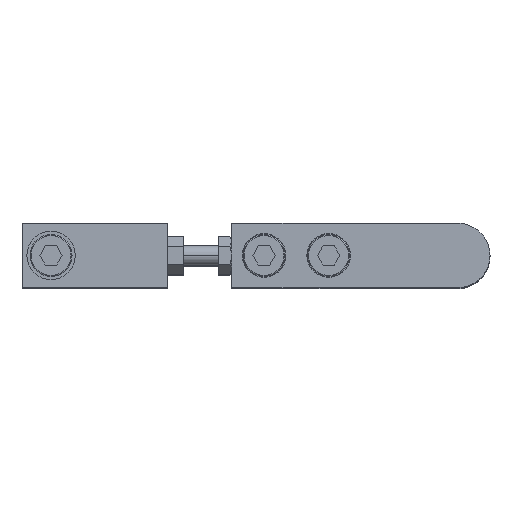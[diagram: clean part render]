
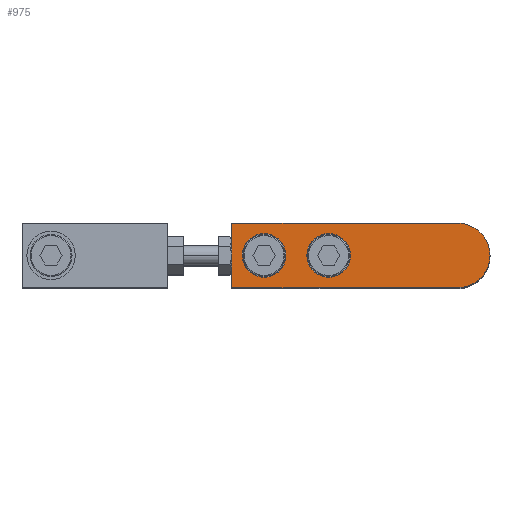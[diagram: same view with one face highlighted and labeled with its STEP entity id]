
A CAD part, top view. The second image highlights one B-rep face of the part: STEP entity #975.
In plain terms, the highlighted planar face has unit normal (0, 0, 1) as drawn and (0, 0, -1) by its records, which use the part's own axes.
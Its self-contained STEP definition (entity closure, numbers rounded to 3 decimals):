
#57 = CIRCLE ( 'NONE', #1817, 6.75 ) ;
#244 = VERTEX_POINT ( 'NONE', #5883 ) ;
#258 = DIRECTION ( 'NONE',  ( -1., 0., 0. ) ) ;
#295 = EDGE_LOOP ( 'NONE', ( #5817, #296 ) ) ;
#296 = ORIENTED_EDGE ( 'NONE', *, *, #4553, .F. ) ;
#410 = CIRCLE ( 'NONE', #6773, 10. ) ;
#412 = DIRECTION ( 'NONE',  ( 0., 0., 1. ) ) ;
#462 = AXIS2_PLACEMENT_3D ( 'NONE', #4015, #2127, #4594 ) ;
#477 = EDGE_LOOP ( 'NONE', ( #4374, #2814 ) ) ;
#527 = VECTOR ( 'NONE', #4738, 1000. ) ;
#624 = CARTESIAN_POINT ( 'NONE',  ( 0., 10., -5. ) ) ;
#626 = CIRCLE ( 'NONE', #6061, 6.75 ) ;
#687 = ORIENTED_EDGE ( 'NONE', *, *, #5254, .F. ) ;
#719 = DIRECTION ( 'NONE',  ( -1., 0., 0. ) ) ;
#973 = CIRCLE ( 'NONE', #3148, 10. ) ;
#975 = ADVANCED_FACE ( 'NONE', ( #2744, #1542, #6601 ), #7363, .F. ) ;
#983 = CARTESIAN_POINT ( 'NONE',  ( 46.75, 0., -5. ) ) ;
#1129 = DIRECTION ( 'NONE',  ( 1., 0., 0. ) ) ;
#1207 = EDGE_LOOP ( 'NONE', ( #2174, #4302, #5799, #6650, #687 ) ) ;
#1448 = CARTESIAN_POINT ( 'NONE',  ( 70., 10., -5. ) ) ;
#1542 = FACE_BOUND ( 'NONE', #295, .T. ) ;
#1597 = VECTOR ( 'NONE', #3779, 1000. ) ;
#1806 = EDGE_CURVE ( 'NONE', #3738, #7539, #626, .T. ) ;
#1817 = AXIS2_PLACEMENT_3D ( 'NONE', #4117, #5268, #5304 ) ;
#1837 = AXIS2_PLACEMENT_3D ( 'NONE', #3880, #412, #7512 ) ;
#2081 = LINE ( 'NONE', #624, #527 ) ;
#2127 = DIRECTION ( 'NONE',  ( 0., 0., -1. ) ) ;
#2174 = ORIENTED_EDGE ( 'NONE', *, *, #6302, .F. ) ;
#2352 = EDGE_CURVE ( 'NONE', #3188, #244, #7307, .T. ) ;
#2734 = DIRECTION ( 'NONE',  ( 1., 0., 0. ) ) ;
#2744 = FACE_BOUND ( 'NONE', #477, .T. ) ;
#2814 = ORIENTED_EDGE ( 'NONE', *, *, #1806, .F. ) ;
#3064 = DIRECTION ( 'NONE',  ( 0., 0., 1. ) ) ;
#3074 = DIRECTION ( 'NONE',  ( 0., 0., -1. ) ) ;
#3148 = AXIS2_PLACEMENT_3D ( 'NONE', #5815, #3498, #1129 ) ;
#3188 = VERTEX_POINT ( 'NONE', #5440 ) ;
#3392 = VECTOR ( 'NONE', #2734, 1000. ) ;
#3443 = CARTESIAN_POINT ( 'NONE',  ( 0., 10., -5. ) ) ;
#3498 = DIRECTION ( 'NONE',  ( 0., 0., 1. ) ) ;
#3511 = CARTESIAN_POINT ( 'NONE',  ( 33.25, 0., -5. ) ) ;
#3710 = CARTESIAN_POINT ( 'NONE',  ( 60., 0., -5. ) ) ;
#3738 = VERTEX_POINT ( 'NONE', #4769 ) ;
#3779 = DIRECTION ( 'NONE',  ( 0., 1., 0. ) ) ;
#3880 = CARTESIAN_POINT ( 'NONE',  ( 0., 0., -5. ) ) ;
#3893 = VERTEX_POINT ( 'NONE', #5556 ) ;
#3961 = CARTESIAN_POINT ( 'NONE',  ( 0., -10., -5. ) ) ;
#4015 = CARTESIAN_POINT ( 'NONE',  ( 40., 0., -5. ) ) ;
#4115 = VERTEX_POINT ( 'NONE', #3511 ) ;
#4117 = CARTESIAN_POINT ( 'NONE',  ( 60., 0., -5. ) ) ;
#4302 = ORIENTED_EDGE ( 'NONE', *, *, #5433, .F. ) ;
#4374 = ORIENTED_EDGE ( 'NONE', *, *, #6414, .F. ) ;
#4513 = AXIS2_PLACEMENT_3D ( 'NONE', #6702, #7295, #258 ) ;
#4553 = EDGE_CURVE ( 'NONE', #6406, #4115, #6771, .T. ) ;
#4594 = DIRECTION ( 'NONE',  ( -1., 0., 0. ) ) ;
#4682 = EDGE_CURVE ( 'NONE', #4115, #6406, #6224, .T. ) ;
#4738 = DIRECTION ( 'NONE',  ( -1., 0., 0. ) ) ;
#4769 = CARTESIAN_POINT ( 'NONE',  ( 66.75, 0., -5. ) ) ;
#5148 = DIRECTION ( 'NONE',  ( 1., 0., 0. ) ) ;
#5254 = EDGE_CURVE ( 'NONE', #7021, #3188, #973, .T. ) ;
#5268 = DIRECTION ( 'NONE',  ( 0., 0., -1. ) ) ;
#5304 = DIRECTION ( 'NONE',  ( -1., 0., 0. ) ) ;
#5433 = EDGE_CURVE ( 'NONE', #3893, #7454, #2081, .T. ) ;
#5440 = CARTESIAN_POINT ( 'NONE',  ( 0., -10., -5. ) ) ;
#5471 = CARTESIAN_POINT ( 'NONE',  ( 0., 0., -5. ) ) ;
#5556 = CARTESIAN_POINT ( 'NONE',  ( 70., 10., -5. ) ) ;
#5799 = ORIENTED_EDGE ( 'NONE', *, *, #7168, .F. ) ;
#5815 = CARTESIAN_POINT ( 'NONE',  ( 0., 0., -5. ) ) ;
#5817 = ORIENTED_EDGE ( 'NONE', *, *, #4682, .F. ) ;
#5872 = CARTESIAN_POINT ( 'NONE',  ( -10., 0., -5. ) ) ;
#5883 = CARTESIAN_POINT ( 'NONE',  ( 70., -10., -5. ) ) ;
#5935 = LINE ( 'NONE', #1448, #1597 ) ;
#6061 = AXIS2_PLACEMENT_3D ( 'NONE', #3710, #3074, #719 ) ;
#6224 = CIRCLE ( 'NONE', #462, 6.75 ) ;
#6302 = EDGE_CURVE ( 'NONE', #7454, #7021, #410, .T. ) ;
#6362 = CARTESIAN_POINT ( 'NONE',  ( 53.25, 0., -5. ) ) ;
#6406 = VERTEX_POINT ( 'NONE', #983 ) ;
#6414 = EDGE_CURVE ( 'NONE', #7539, #3738, #57, .T. ) ;
#6601 = FACE_OUTER_BOUND ( 'NONE', #1207, .T. ) ;
#6650 = ORIENTED_EDGE ( 'NONE', *, *, #2352, .F. ) ;
#6702 = CARTESIAN_POINT ( 'NONE',  ( 40., 0., -5. ) ) ;
#6771 = CIRCLE ( 'NONE', #4513, 6.75 ) ;
#6773 = AXIS2_PLACEMENT_3D ( 'NONE', #5471, #3064, #5148 ) ;
#7021 = VERTEX_POINT ( 'NONE', #5872 ) ;
#7168 = EDGE_CURVE ( 'NONE', #244, #3893, #5935, .T. ) ;
#7295 = DIRECTION ( 'NONE',  ( 0., 0., -1. ) ) ;
#7307 = LINE ( 'NONE', #3961, #3392 ) ;
#7363 = PLANE ( 'NONE',  #1837 ) ;
#7454 = VERTEX_POINT ( 'NONE', #3443 ) ;
#7512 = DIRECTION ( 'NONE',  ( 1., 0., 0. ) ) ;
#7539 = VERTEX_POINT ( 'NONE', #6362 ) ;
